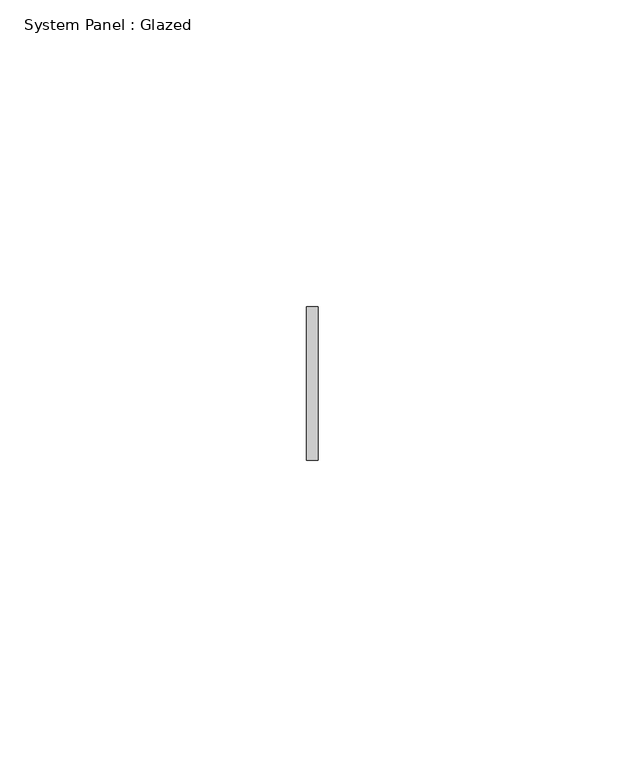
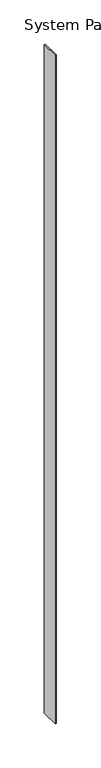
"""IFC4 building model written with IfcOpenShell, lengths in millimetres: plate geometry, System Panel : Glazed."""

from ifc_helpers import new_model, si_unit, origin, origin_with_axes, place, context, project, spatial, polyline, outline, extrude, source, transform, mapped, element, save


def system_panel_glazed_fd479a10(model_context):
    return source(origin(), model_context, "Body", "SweptSolid", [
        extrude(outline(polyline([(0.9431423, -72.5), (-0.9431423, -72.5), (-0.9431423, -47.5), (0.9431423, -47.5), (0.9431423, -72.5)])), origin_with_axes(), (0.0, 0.0, 1.0), 926.3515371),
    ])


if __name__ == "__main__":
    model = new_model("IFC4")
    model_context = context("Model", 3, world=origin())
    ifc_project = project(units=[si_unit("LENGTHUNIT", "METRE", prefix="MILLI")], contexts=[model_context])
    site = spatial("IfcSite", under=ifc_project)
    building = spatial("IfcBuilding", under=site)
    placement = place(None, origin())
    system_panel_glazed_shape = system_panel_glazed_fd479a10(model_context)
    element("IfcPlate", 1, ObjectType="System Panel : Glazed", at=placement, inside=building, context=model_context, shape_type="MappedRepresentation", body=[
        mapped(system_panel_glazed_shape, transform((0.0, 0.0, 0.0), x_axis=(1.0, 0.0, 0.0), y_axis=(0.0, 1.0, 0.0), z_axis=(0.0, 0.0, 1.0))),
    ])
    save(model, "model.ifc")
